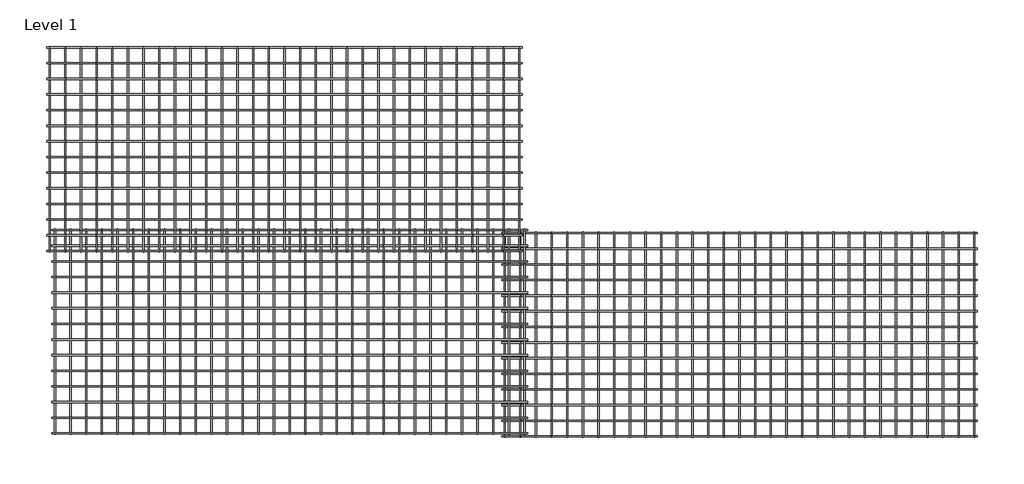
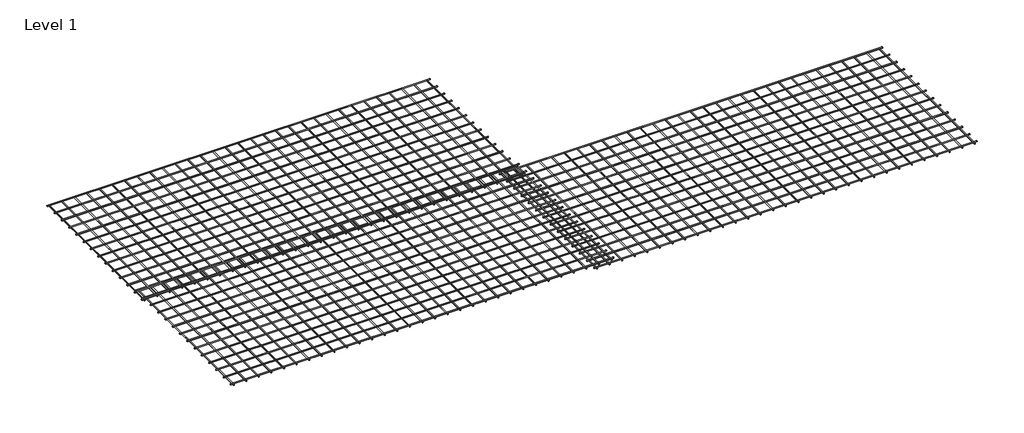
# One storey: 3 proxies.
"""IFC4 building model written with IfcOpenShell, lengths in millimetres."""

from ifc_helpers import new_model, si_unit, origin, place, context, project, spatial, transform, mapped, element, save
from components import united_steel_664_standard_mesh_united_steel_664_standard_126bfd4c

model = new_model("IFC4")

# Units and contexts
model_context = context("Model", 3, world=origin())
ifc_project = project(units=[si_unit("LENGTHUNIT", "METRE", prefix="MILLI")], contexts=[model_context])

# Site, building, storey
site = spatial("IfcSite", under=ifc_project)
building = spatial("IfcBuilding", under=site)
storey = spatial("IfcBuildingStorey", under=building, Name="Level 1", Elevation=0.0)

# Proxies
placement = place(None, origin())
united_steel_664_standard_mesh_united_steel_664_standard_shape = united_steel_664_standard_mesh_united_steel_664_standard_126bfd4c(model_context)
element("IfcBuildingElementProxy", 1, Name="United Steel 664 Standard Mesh : United Steel 664 Standard Mesh", ObjectType="United Steel 664 Standard Mesh : United Steel 664 Standard Mesh", at=placement, inside=storey, context=model_context, shape_type="MappedRepresentation", body=[
    mapped(united_steel_664_standard_mesh_united_steel_664_standard_shape, transform((5536.2856589, 2171.3157499, 87.1875), x_axis=(1.0, 0.0, 0.0), y_axis=(0.0, 1.0, 0.0), z_axis=(0.0, 0.0, 1.0))),
])
element("IfcBuildingElementProxy", 2, Name="United Steel 664 Standard Mesh : United Steel 664 Standard Mesh", ObjectType="United Steel 664 Standard Mesh : United Steel 664 Standard Mesh", at=placement, inside=storey, context=model_context, shape_type="MappedRepresentation", body=[
    mapped(united_steel_664_standard_mesh_united_steel_664_standard_shape, transform((5486.2856589, 3922.0074308, 111.171875), x_axis=(1.0, 0.0, 0.0), y_axis=(0.0, 1.0, 0.0), z_axis=(0.0, 0.0, 1.0))),
])
element("IfcBuildingElementProxy", 3, Name="United Steel 664 Standard Mesh : United Steel 664 Standard Mesh", ObjectType="United Steel 664 Standard Mesh : United Steel 664 Standard Mesh", at=placement, inside=storey, context=model_context, shape_type="MappedRepresentation", body=[
    mapped(united_steel_664_standard_mesh_united_steel_664_standard_shape, transform((9846.1955059, 2142.5757703, 63.1835938), x_axis=(1.0, 0.0, 0.0), y_axis=(0.0, 1.0, 0.0), z_axis=(0.0, 0.0, 1.0))),
])

save(model, "model.ifc")
